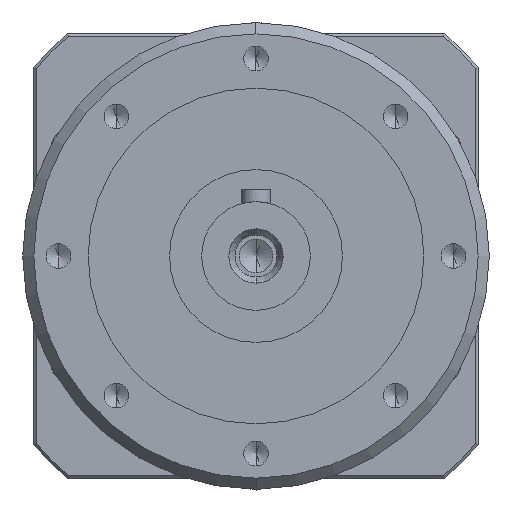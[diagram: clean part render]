
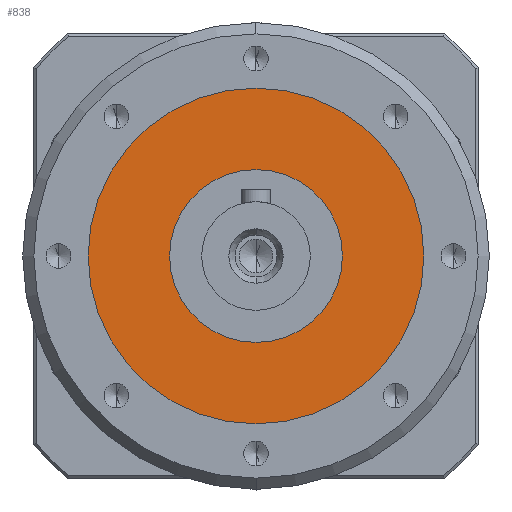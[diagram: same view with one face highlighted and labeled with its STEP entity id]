
A CAD part, left-side view. The second image highlights one B-rep face of the part: STEP entity #838.
In plain terms, the highlighted planar face has unit normal (-1, 0, 0) as drawn and (0, 1, 0) by its records, which use the part's own axes.
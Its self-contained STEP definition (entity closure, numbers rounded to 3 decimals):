
#785 = ORIENTED_EDGE ( 'NONE', *, *, #3358, .T. ) ;
#792 = ORIENTED_EDGE ( 'NONE', *, *, #800, .T. ) ;
#799 = EDGE_LOOP ( 'NONE', ( #827, #844 ) ) ;
#800 = EDGE_CURVE ( 'NONE', #3362, #3398, #1522, .T. ) ;
#801 = EDGE_CURVE ( 'NONE', #9588, #9583, #1515, .T. ) ;
#817 = EDGE_LOOP ( 'NONE', ( #785, #792 ) ) ;
#827 = ORIENTED_EDGE ( 'NONE', *, *, #9582, .F. ) ;
#838 = ADVANCED_FACE ( 'NONE', ( #1624, #1642 ), #1603, .T. ) ;
#844 = ORIENTED_EDGE ( 'NONE', *, *, #801, .F. ) ;
#1503 = DIRECTION ( 'NONE',  ( 0., 0., 1. ) ) ;
#1504 = DIRECTION ( 'NONE',  ( 0., 1., 0. ) ) ;
#1506 = DIRECTION ( 'NONE',  ( 0., 0., 1. ) ) ;
#1507 = DIRECTION ( 'NONE',  ( 0., 1., 0. ) ) ;
#1508 = CARTESIAN_POINT ( 'NONE',  ( 0., 56., 0. ) ) ;
#1515 = CIRCLE ( 'NONE', #1532, 17.5 ) ;
#1522 = CIRCLE ( 'NONE', #1528, 34. ) ;
#1527 = CARTESIAN_POINT ( 'NONE',  ( 0., 56., 0. ) ) ;
#1528 = AXIS2_PLACEMENT_3D ( 'NONE', #1527, #1504, #1503 ) ;
#1532 = AXIS2_PLACEMENT_3D ( 'NONE', #1508, #1507, #1506 ) ;
#1603 = PLANE ( 'NONE',  #1610 ) ;
#1610 = AXIS2_PLACEMENT_3D ( 'NONE', #1627, #1645, #1635 ) ;
#1624 = FACE_OUTER_BOUND ( 'NONE', #817, .T. ) ;
#1627 = CARTESIAN_POINT ( 'NONE',  ( 0., 56., 0. ) ) ;
#1635 = DIRECTION ( 'NONE',  ( 0., 0., 1. ) ) ;
#1642 = FACE_BOUND ( 'NONE', #799, .T. ) ;
#1645 = DIRECTION ( 'NONE',  ( 0., 1., 0. ) ) ;
#1973 = CARTESIAN_POINT ( 'NONE',  ( 0., 56., -17.5 ) ) ;
#1986 = CIRCLE ( 'NONE', #2001, 17.5 ) ;
#2001 = AXIS2_PLACEMENT_3D ( 'NONE', #2021, #2007, #2006 ) ;
#2006 = DIRECTION ( 'NONE',  ( 0., 0., 1. ) ) ;
#2007 = DIRECTION ( 'NONE',  ( 0., 1., 0. ) ) ;
#2021 = CARTESIAN_POINT ( 'NONE',  ( 0., 56., 0. ) ) ;
#2022 = CARTESIAN_POINT ( 'NONE',  ( 0., 56., 17.5 ) ) ;
#3358 = EDGE_CURVE ( 'NONE', #3398, #3362, #6949, .T. ) ;
#3362 = VERTEX_POINT ( 'NONE', #6866 ) ;
#3398 = VERTEX_POINT ( 'NONE', #6967 ) ;
#6864 = DIRECTION ( 'NONE',  ( 0., 0., 1. ) ) ;
#6865 = DIRECTION ( 'NONE',  ( 0., 1., 0. ) ) ;
#6866 = CARTESIAN_POINT ( 'NONE',  ( 0., 56., -34. ) ) ;
#6921 = AXIS2_PLACEMENT_3D ( 'NONE', #6938, #6865, #6864 ) ;
#6938 = CARTESIAN_POINT ( 'NONE',  ( 0., 56., 0. ) ) ;
#6949 = CIRCLE ( 'NONE', #6921, 34. ) ;
#6967 = CARTESIAN_POINT ( 'NONE',  ( 0., 56., 34. ) ) ;
#9582 = EDGE_CURVE ( 'NONE', #9583, #9588, #1986, .T. ) ;
#9583 = VERTEX_POINT ( 'NONE', #2022 ) ;
#9588 = VERTEX_POINT ( 'NONE', #1973 ) ;
